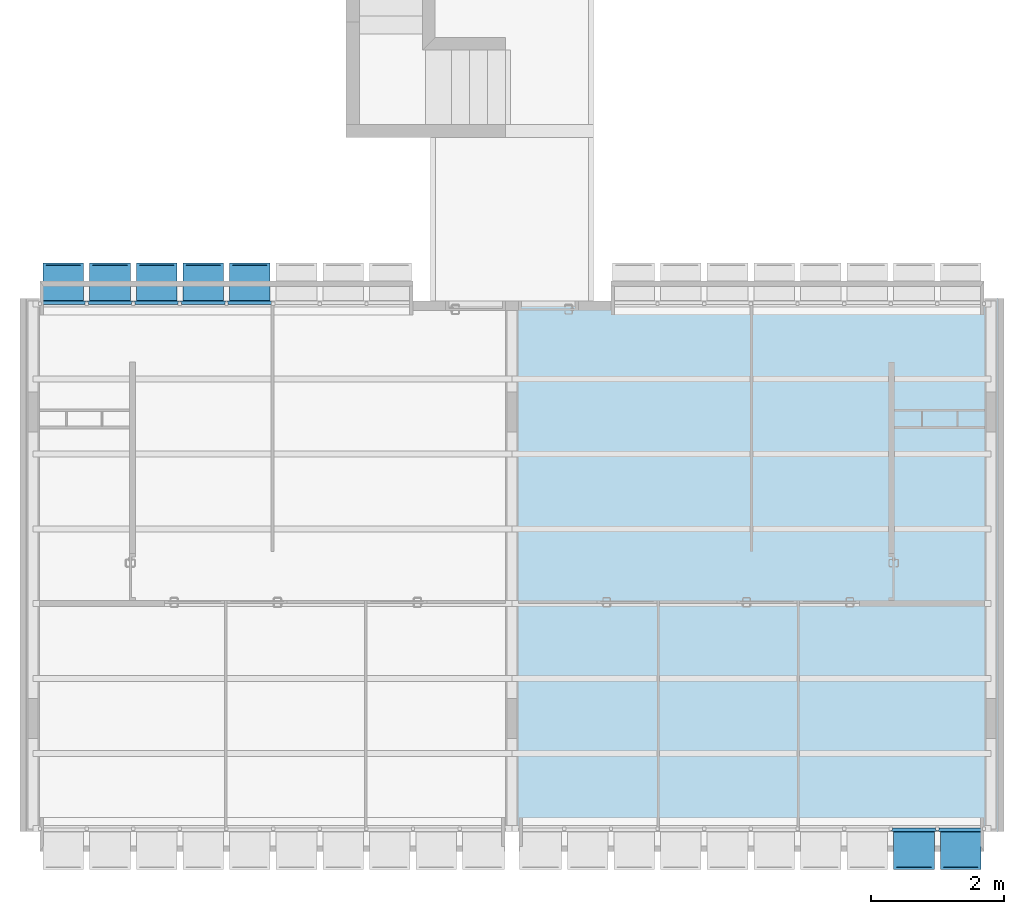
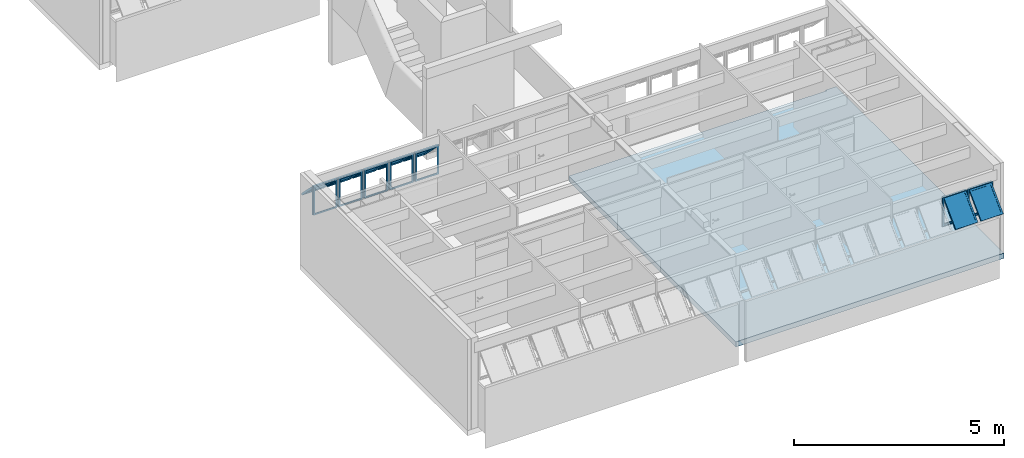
# One storey, part 7 of 41: 7 plates, 1 slab, 2 elements without a shape of their own.
"""IFC4 building model written with IfcOpenShell, lengths in millimetres."""

from ifc_helpers import new_model, entity, si_unit, converted_unit, derived_unit, direction, frame, origin_with_axes, place, context, subcontext, project, spatial, line, indexed_curve, outline, extrude, polygons, source, transform, mapped, material, layer, layer_set, layer_usage, constituent, constituent_set, type_object, element, aggregate, save


model = new_model("IFC4")

# Units and contexts
model_context = context("Model", 3, precision=0.01, world=origin_with_axes(), true_north=direction((0.0, 1.0)))
body_context = subcontext(model_context, "Body", "Model", "MODEL_VIEW")
ifc_project = project(units=[si_unit("LENGTHUNIT", "METRE", prefix="MILLI"), si_unit("AREAUNIT", "SQUARE_METRE"), si_unit("VOLUMEUNIT", "CUBIC_METRE"), converted_unit("PLANEANGLEUNIT", "DEGREE", entity("IfcPlaneAngleMeasure", 0.0174532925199), si_unit("PLANEANGLEUNIT", "RADIAN"), dimensions=[0, 0, 0, 0, 0, 0, 0]), converted_unit("TIMEUNIT", "Year", entity("IfcTimeMeasure", 31556926.0), si_unit("TIMEUNIT", "SECOND"), dimensions=[0, 0, 1, 0, 0, 0, 0]), si_unit("MASSUNIT", "GRAM", prefix="KILO"), si_unit("THERMODYNAMICTEMPERATUREUNIT", "DEGREE_CELSIUS"), si_unit("LUMINOUSINTENSITYUNIT", "LUMEN"), si_unit("ENERGYUNIT", "JOULE", prefix="MEGA"), derived_unit("THERMALCONDUCTANCEUNIT", [(si_unit("POWERUNIT", "WATT"), 1), (si_unit("LENGTHUNIT", "METRE"), -1), (si_unit("THERMODYNAMICTEMPERATUREUNIT", "KELVIN"), -1)]), derived_unit("SPECIFICHEATCAPACITYUNIT", [(si_unit("ENERGYUNIT", "JOULE"), 1), (si_unit("MASSUNIT", "GRAM", prefix="KILO"), -1), (si_unit("THERMODYNAMICTEMPERATUREUNIT", "KELVIN"), -1)]), derived_unit("MASSDENSITYUNIT", [(si_unit("MASSUNIT", "GRAM", prefix="KILO"), 1), (si_unit("VOLUMEUNIT", "CUBIC_METRE"), -1)])], contexts=[model_context])

# Site, building, storey
site_placement = place(None, origin_with_axes())
site = spatial("IfcSite", under=ifc_project, at=site_placement, Name="Local", CompositionType="ELEMENT")
building_placement = place(site_placement, origin_with_axes())
building = spatial("IfcBuilding", under=site, at=building_placement, Name="Construção", CompositionType="ELEMENT")
storey_placement = place(building_placement, frame((0.0, 0.0, 2650.0), z_axis=(0.0, 0.0, 1.0), x_axis=(1.0, 0.0, 0.0)))
storey = spatial("IfcBuildingStorey", under=building, at=storey_placement, Name="Segundo Pavimento", CompositionType="ELEMENT", Elevation=2650.0)

# Slab
ifc_material_1 = material(Name="Concreto Armado Moldado in Loco - Estrutural")
ifc_layer = layer(ifc_material_1, 150.0, ventilated="UNKNOWN", Name="Concreto Armado Moldado in Loco - Estrutural")
ifc_layer_set = layer_set([ifc_layer], Name="Concreto Armado Moldado in Loco - Estrutural 150")
ifc_layer_usage = layer_usage(ifc_layer_set, "AXIS3", "NEGATIVE", 150.0)
slab_type = type_object("IfcSlabType", Name="Concreto Armado Moldado in Loco - Estrutural 150", PredefinedType="FLOOR")
slab_placement = place(storey_placement, frame((14770.0, 300.0, 0.0), z_axis=(0.0, 0.0, 1.0), x_axis=(1.0, 0.0, 0.0)))
element("IfcSlab", 1, at=slab_placement, inside=storey, type_object=slab_type, material=ifc_layer_usage, Name="APTO6-LAJE-000", PredefinedType="FLOOR", context=body_context, shape_type="SweptSolid", body=[
    extrude(outline(indexed_curve([(0.0, 0.0), (0.0, 7999.99999872), (-289.999999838, 8000.00000006), (-290.0, 7965.0), (-5900.0, 7965.0), (-6160.00008404, 7964.99999866), (-7385.0, 7964.99999866), (-7385.0, 0.0), (-299.999978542, 0.0)], segments=[line(1, 2, 3, 4, 5, 6, 7, 8, 9, 1)])), frame((0.0, 0.0, -150.0), z_axis=(0.0, 0.0, 1.0), x_axis=(1.0, 0.0, 0.0)), (0.0, 0.0, 1.0), 150.0),
])

# Window, plates
window_type = type_object("IfcWindowType", Name="Tipo de Parede Cortina", PartitioningType="NOTDEFINED", PredefinedType="NOTDEFINED")
window_1_placement = place(storey_placement, frame((2750.0, 8250.0, 1355.00007107), z_axis=(0.0, 0.0, 1.0), x_axis=(1.0, 0.0, 0.0)))
window_1 = element("IfcWindow", 2, at=window_1_placement, inside=storey, type_object=window_type, Name="APTO5-JANELA-000", PredefinedType="NOTDEFINED")
ifc_material_2 = material(Name="Alumínio")
ifc_constituent_1 = constituent(ifc_material_2, Name="Alumínio")
ifc_material_3 = material(Name="Vidro")
ifc_constituent_2 = constituent(ifc_material_3, Name="Vidro")
ifc_constituent_set_1 = constituent_set(constituents=[ifc_constituent_1, ifc_constituent_2])
plate_type = type_object("IfcPlateType", Name="Painel Principal 690 x 845 x 20", PredefinedType="CURTAIN_PANEL")
shared_shape_1 = source(origin_with_axes(), body_context, "Body", "Tessellation", [
    polygons([(-25.0000036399, 0.0, -40.0), (-25.0000036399, 0.0, -35.0), (-674.999997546, 0.0, -35.0), (-674.999997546, 0.0, -40.0), (-70.0000036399, 45.0, -40.0), (-70.0000036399, 45.0, -35.0), (-629.999997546, 45.0, -35.0), (-629.999997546, 45.0, -40.0)], [[[1, 2, 3, 4]], [[5, 6, 2, 1]], [[2, 6, 7, 3]], [[4, 3, 7, 8]], [[1, 4, 8, 5]], [[8, 7, 6, 5]]], closed=True),
    polygons([(-674.999997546, 0.0, -40.0), (-674.999997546, 0.0, -35.0), (-674.999997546, 844.999891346, -35.0), (-674.999997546, 844.999891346, -40.0), (-629.999997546, 45.0, -40.0), (-629.999997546, 45.0, -35.0), (-629.999997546, 799.999891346, -35.0), (-629.999997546, 799.999891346, -40.0)], [[[1, 2, 3, 4]], [[5, 6, 2, 1]], [[2, 6, 7, 3]], [[4, 3, 7, 8]], [[1, 4, 8, 5]], [[8, 7, 6, 5]]], closed=True),
    polygons([(-25.0000036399, 844.999891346, -40.0), (-25.0000036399, 844.999891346, -35.0), (-70.0000036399, 799.999891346, -35.0), (-70.0000036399, 799.999891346, -40.0), (-674.999997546, 844.999891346, -40.0), (-674.999997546, 844.999891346, -35.0), (-629.999997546, 799.999891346, -35.0), (-629.999997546, 799.999891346, -40.0)], [[[1, 2, 3, 4]], [[5, 6, 2, 1]], [[2, 6, 7, 3]], [[4, 3, 7, 8]], [[1, 4, 8, 5]], [[8, 7, 6, 5]]], closed=True),
    polygons([(-25.0000036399, 0.0, -40.0), (-25.0000036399, 0.0, -35.0), (-70.0000036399, 45.0, -35.0), (-70.0000036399, 45.0, -40.0), (-25.0000036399, 844.999891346, -40.0), (-25.0000036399, 844.999891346, -35.0), (-70.0000036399, 799.999891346, -35.0), (-70.0000036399, 799.999891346, -40.0)], [[[1, 2, 3, 4]], [[5, 6, 2, 1]], [[2, 6, 7, 3]], [[4, 3, 7, 8]], [[1, 4, 8, 5]], [[8, 7, 6, 5]]], closed=True),
    polygons([(-25.0000036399, 0.0, -35.0), (-25.0000036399, 0.0, 15.0), (-674.999997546, 0.0, 15.0), (-674.999997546, 0.0, -35.0), (-45.0000036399, 20.0, -35.0), (-45.0000036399, 20.0, 15.0), (-654.999997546, 20.0, 15.0), (-654.999997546, 20.0, -35.0)], [[[1, 2, 3, 4]], [[5, 6, 2, 1]], [[2, 6, 7, 3]], [[4, 3, 7, 8]], [[1, 4, 8, 5]], [[8, 7, 6, 5]]], closed=True),
    polygons([(-674.999997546, 0.0, -35.0), (-674.999997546, 0.0, 15.0), (-674.999997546, 844.999891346, 15.0), (-674.999997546, 844.999891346, -35.0), (-654.999997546, 20.0, -35.0), (-654.999997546, 20.0, 15.0), (-654.999997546, 824.999891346, 15.0), (-654.999997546, 824.999891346, -35.0)], [[[1, 2, 3, 4]], [[5, 6, 2, 1]], [[2, 6, 7, 3]], [[4, 3, 7, 8]], [[1, 4, 8, 5]], [[8, 7, 6, 5]]], closed=True),
    polygons([(-25.0000036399, 844.999891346, -35.0), (-25.0000036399, 844.999891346, 15.0), (-45.0000036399, 824.999891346, 15.0), (-45.0000036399, 824.999891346, -35.0), (-674.999997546, 844.999891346, -35.0), (-674.999997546, 844.999891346, 15.0), (-654.999997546, 824.999891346, 15.0), (-654.999997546, 824.999891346, -35.0)], [[[1, 2, 3, 4]], [[5, 6, 2, 1]], [[2, 6, 7, 3]], [[4, 3, 7, 8]], [[1, 4, 8, 5]], [[8, 7, 6, 5]]], closed=True),
    polygons([(-25.0000036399, 0.0, -35.0), (-25.0000036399, 0.0, 15.0), (-45.0000036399, 20.0, 15.0), (-45.0000036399, 20.0, -35.0), (-25.0000036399, 844.999891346, -35.0), (-25.0000036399, 844.999891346, 15.0), (-45.0000036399, 824.999891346, 15.0), (-45.0000036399, 824.999891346, -35.0)], [[[1, 2, 3, 4]], [[5, 6, 2, 1]], [[2, 6, 7, 3]], [[4, 3, 7, 8]], [[1, 4, 8, 5]], [[8, 7, 6, 5]]], closed=True),
    polygons([(-694.999995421, 0.0, -10.0), (-694.999995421, 0.0, 10.0), (-694.999995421, 844.999891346, 10.0), (-694.999995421, 844.999891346, -10.0), (-674.999997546, 0.0, -10.0), (-674.999997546, 0.0, 10.0), (-674.999997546, 844.999891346, 10.0), (-674.999997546, 844.999891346, -10.0)], [[[1, 2, 3, 4]], [[5, 6, 2, 1]], [[2, 6, 7, 3]], [[4, 3, 7, 8]], [[1, 4, 8, 5]], [[8, 7, 6, 5]]], closed=True),
    polygons([(-5.00000576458, 844.999891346, -10.0), (-5.00000576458, 844.999891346, 10.0), (-5.00000576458, 0.0, 10.0), (-5.00000576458, 0.0, -10.0), (-25.0000036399, 844.999891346, -10.0), (-25.0000036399, 844.999891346, 10.0), (-25.0000036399, 0.0, 10.0), (-25.0000036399, 0.0, -10.0)], [[[1, 2, 3, 4]], [[5, 6, 2, 1]], [[2, 6, 7, 3]], [[4, 3, 7, 8]], [[1, 4, 8, 5]], [[8, 7, 6, 5]]], closed=True),
    polygons([(-90.0000036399, 252.243475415, 517.045737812), (-90.0000036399, 291.13434838, 555.936610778), (-90.0000036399, 796.715620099, 50.3553390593), (-90.0000036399, 757.824747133, 11.4644660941), (-45.0000036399, 220.423670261, 548.865542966), (-45.0000036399, 259.314543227, 587.756415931), (-45.0000036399, 828.535425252, 18.5355339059), (-45.0000036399, 789.644552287, -20.3553390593)], [[[1, 2, 3, 4]], [[5, 6, 2, 1]], [[2, 6, 7, 3]], [[4, 3, 7, 8]], [[1, 4, 8, 5]], [[8, 7, 6, 5]]], closed=True),
    polygons([(-654.999997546, 220.423670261, 548.865542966), (-654.999997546, 259.314543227, 587.756415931), (-654.999997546, 828.535425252, 18.5355339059), (-654.999997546, 789.644552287, -20.3553390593), (-609.999997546, 252.243475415, 517.045737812), (-609.999997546, 291.13434838, 555.936610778), (-609.999997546, 796.715620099, 50.3553390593), (-609.999997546, 757.824747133, 11.4644660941)], [[[1, 2, 3, 4]], [[5, 6, 2, 1]], [[2, 6, 7, 3]], [[4, 3, 7, 8]], [[1, 4, 8, 5]], [[8, 7, 6, 5]]], closed=True),
    polygons([(-654.999997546, 220.423670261, 548.865542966), (-654.999997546, 259.314543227, 587.756415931), (-609.999997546, 291.13434838, 555.936610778), (-609.999997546, 252.243475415, 517.045737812), (-45.0000036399, 220.423670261, 548.865542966), (-45.0000036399, 259.314543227, 587.756415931), (-90.0000036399, 291.13434838, 555.936610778), (-90.0000036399, 252.243475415, 517.045737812)], [[[1, 2, 3, 4]], [[5, 6, 2, 1]], [[2, 6, 7, 3]], [[4, 3, 7, 8]], [[1, 4, 8, 5]], [[8, 7, 6, 5]]], closed=True),
    polygons([(-45.0000036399, 789.644552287, -20.3553390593), (-45.0000036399, 828.535425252, 18.5355339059), (-90.0000036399, 796.715620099, 50.3553390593), (-90.0000036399, 757.824747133, 11.4644660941), (-654.999997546, 789.644552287, -20.3553390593), (-654.999997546, 828.535425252, 18.5355339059), (-609.999997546, 796.715620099, 50.3553390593), (-609.999997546, 757.824747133, 11.4644660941)], [[[1, 2, 3, 4]], [[5, 6, 2, 1]], [[2, 6, 7, 3]], [[4, 3, 7, 8]], [[1, 4, 8, 5]], [[8, 7, 6, 5]]], closed=True),
    polygons([(-90.0000036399, 272.749572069, 537.551834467), (-90.0000036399, 284.063280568, 548.865542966), (-609.999997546, 284.063280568, 548.865542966), (-609.999997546, 272.749572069, 537.551834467), (-90.0000036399, 778.330843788, 31.9705627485), (-90.0000036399, 789.644552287, 43.2842712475), (-609.999997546, 789.644552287, 43.2842712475), (-609.999997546, 778.330843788, 31.9705627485)], [[[1, 2, 3, 4]], [[5, 6, 2, 1]], [[2, 6, 7, 3]], [[4, 3, 7, 8]], [[1, 4, 8, 5]], [[8, 7, 6, 5]]], closed=True),
])
plate_1_placement = place(window_1_placement, frame((0.0, 0.0, 422.499964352), z_axis=(0.0, 0.0, 1.0), x_axis=(-1.0, 0.0, 0.0)))
plate_1 = element("IfcPlate", 3, at=plate_1_placement, type_object=plate_type, material=ifc_constituent_set_1, Name="APTO5-Painel-Prin-013", PredefinedType="CURTAIN_PANEL", context=body_context, shape_type="MappedRepresentation", body=[
    mapped(shared_shape_1, transform((350.0, 0.0, -422.499964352), x_axis=(1.0, 0.0, 0.0), y_axis=(0.0, 0.0, 1.0), z_axis=(0.0, -1.0, 0.0))),
])
ifc_constituent_3 = constituent(ifc_material_2, Name="Alumínio")
ifc_constituent_4 = constituent(ifc_material_3, Name="Vidro")
ifc_constituent_set_2 = constituent_set(constituents=[ifc_constituent_3, ifc_constituent_4])
shared_shape_2 = source(origin_with_axes(), body_context, "Body", "Tessellation", [
    polygons([(-25.0000036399, 0.0, -40.0), (-25.0000036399, 0.0, -35.0), (-674.999997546, 0.0, -35.0), (-674.999997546, 0.0, -40.0), (-70.0000036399, 45.0, -40.0), (-70.0000036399, 45.0, -35.0), (-629.999997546, 45.0, -35.0), (-629.999997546, 45.0, -40.0)], [[[1, 2, 3, 4]], [[5, 6, 2, 1]], [[2, 6, 7, 3]], [[4, 3, 7, 8]], [[1, 4, 8, 5]], [[8, 7, 6, 5]]], closed=True),
    polygons([(-674.999997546, 0.0, -40.0), (-674.999997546, 0.0, -35.0), (-674.999997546, 844.999891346, -35.0), (-674.999997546, 844.999891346, -40.0), (-629.999997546, 45.0, -40.0), (-629.999997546, 45.0, -35.0), (-629.999997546, 799.999891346, -35.0), (-629.999997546, 799.999891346, -40.0)], [[[1, 2, 3, 4]], [[5, 6, 2, 1]], [[2, 6, 7, 3]], [[4, 3, 7, 8]], [[1, 4, 8, 5]], [[8, 7, 6, 5]]], closed=True),
    polygons([(-25.0000036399, 844.999891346, -40.0), (-25.0000036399, 844.999891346, -35.0), (-70.0000036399, 799.999891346, -35.0), (-70.0000036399, 799.999891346, -40.0), (-674.999997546, 844.999891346, -40.0), (-674.999997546, 844.999891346, -35.0), (-629.999997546, 799.999891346, -35.0), (-629.999997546, 799.999891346, -40.0)], [[[1, 2, 3, 4]], [[5, 6, 2, 1]], [[2, 6, 7, 3]], [[4, 3, 7, 8]], [[1, 4, 8, 5]], [[8, 7, 6, 5]]], closed=True),
    polygons([(-25.0000036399, 0.0, -40.0), (-25.0000036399, 0.0, -35.0), (-70.0000036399, 45.0, -35.0), (-70.0000036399, 45.0, -40.0), (-25.0000036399, 844.999891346, -40.0), (-25.0000036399, 844.999891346, -35.0), (-70.0000036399, 799.999891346, -35.0), (-70.0000036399, 799.999891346, -40.0)], [[[1, 2, 3, 4]], [[5, 6, 2, 1]], [[2, 6, 7, 3]], [[4, 3, 7, 8]], [[1, 4, 8, 5]], [[8, 7, 6, 5]]], closed=True),
    polygons([(-25.0000036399, 0.0, -35.0), (-25.0000036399, 0.0, 15.0), (-674.999997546, 0.0, 15.0), (-674.999997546, 0.0, -35.0), (-45.0000036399, 20.0, -35.0), (-45.0000036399, 20.0, 15.0), (-654.999997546, 20.0, 15.0), (-654.999997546, 20.0, -35.0)], [[[1, 2, 3, 4]], [[5, 6, 2, 1]], [[2, 6, 7, 3]], [[4, 3, 7, 8]], [[1, 4, 8, 5]], [[8, 7, 6, 5]]], closed=True),
    polygons([(-674.999997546, 0.0, -35.0), (-674.999997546, 0.0, 15.0), (-674.999997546, 844.999891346, 15.0), (-674.999997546, 844.999891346, -35.0), (-654.999997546, 20.0, -35.0), (-654.999997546, 20.0, 15.0), (-654.999997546, 824.999891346, 15.0), (-654.999997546, 824.999891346, -35.0)], [[[1, 2, 3, 4]], [[5, 6, 2, 1]], [[2, 6, 7, 3]], [[4, 3, 7, 8]], [[1, 4, 8, 5]], [[8, 7, 6, 5]]], closed=True),
    polygons([(-25.0000036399, 844.999891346, -35.0), (-25.0000036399, 844.999891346, 15.0), (-45.0000036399, 824.999891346, 15.0), (-45.0000036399, 824.999891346, -35.0), (-674.999997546, 844.999891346, -35.0), (-674.999997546, 844.999891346, 15.0), (-654.999997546, 824.999891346, 15.0), (-654.999997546, 824.999891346, -35.0)], [[[1, 2, 3, 4]], [[5, 6, 2, 1]], [[2, 6, 7, 3]], [[4, 3, 7, 8]], [[1, 4, 8, 5]], [[8, 7, 6, 5]]], closed=True),
    polygons([(-25.0000036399, 0.0, -35.0), (-25.0000036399, 0.0, 15.0), (-45.0000036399, 20.0, 15.0), (-45.0000036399, 20.0, -35.0), (-25.0000036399, 844.999891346, -35.0), (-25.0000036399, 844.999891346, 15.0), (-45.0000036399, 824.999891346, 15.0), (-45.0000036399, 824.999891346, -35.0)], [[[1, 2, 3, 4]], [[5, 6, 2, 1]], [[2, 6, 7, 3]], [[4, 3, 7, 8]], [[1, 4, 8, 5]], [[8, 7, 6, 5]]], closed=True),
    polygons([(-694.999995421, 0.0, -10.0), (-694.999995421, 0.0, 10.0), (-694.999995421, 844.999891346, 10.0), (-694.999995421, 844.999891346, -10.0), (-674.999997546, 0.0, -10.0), (-674.999997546, 0.0, 10.0), (-674.999997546, 844.999891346, 10.0), (-674.999997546, 844.999891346, -10.0)], [[[1, 2, 3, 4]], [[5, 6, 2, 1]], [[2, 6, 7, 3]], [[4, 3, 7, 8]], [[1, 4, 8, 5]], [[8, 7, 6, 5]]], closed=True),
    polygons([(-5.00000576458, 844.999891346, -10.0), (-5.00000576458, 844.999891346, 10.0), (-5.00000576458, 0.0, 10.0), (-5.00000576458, 0.0, -10.0), (-25.0000036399, 844.999891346, -10.0), (-25.0000036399, 844.999891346, 10.0), (-25.0000036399, 0.0, 10.0), (-25.0000036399, 0.0, -10.0)], [[[1, 2, 3, 4]], [[5, 6, 2, 1]], [[2, 6, 7, 3]], [[4, 3, 7, 8]], [[1, 4, 8, 5]], [[8, 7, 6, 5]]], closed=True),
    polygons([(-90.0000036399, 252.243475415, 517.045737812), (-90.0000036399, 291.13434838, 555.936610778), (-90.0000036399, 796.715620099, 50.3553390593), (-90.0000036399, 757.824747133, 11.4644660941), (-45.0000036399, 220.423670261, 548.865542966), (-45.0000036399, 259.314543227, 587.756415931), (-45.0000036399, 828.535425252, 18.5355339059), (-45.0000036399, 789.644552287, -20.3553390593)], [[[1, 2, 3, 4]], [[5, 6, 2, 1]], [[2, 6, 7, 3]], [[4, 3, 7, 8]], [[1, 4, 8, 5]], [[8, 7, 6, 5]]], closed=True),
    polygons([(-654.999997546, 220.423670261, 548.865542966), (-654.999997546, 259.314543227, 587.756415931), (-654.999997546, 828.535425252, 18.5355339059), (-654.999997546, 789.644552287, -20.3553390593), (-609.999997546, 252.243475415, 517.045737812), (-609.999997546, 291.13434838, 555.936610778), (-609.999997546, 796.715620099, 50.3553390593), (-609.999997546, 757.824747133, 11.4644660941)], [[[1, 2, 3, 4]], [[5, 6, 2, 1]], [[2, 6, 7, 3]], [[4, 3, 7, 8]], [[1, 4, 8, 5]], [[8, 7, 6, 5]]], closed=True),
    polygons([(-654.999997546, 220.423670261, 548.865542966), (-654.999997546, 259.314543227, 587.756415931), (-609.999997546, 291.13434838, 555.936610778), (-609.999997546, 252.243475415, 517.045737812), (-45.0000036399, 220.423670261, 548.865542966), (-45.0000036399, 259.314543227, 587.756415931), (-90.0000036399, 291.13434838, 555.936610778), (-90.0000036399, 252.243475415, 517.045737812)], [[[1, 2, 3, 4]], [[5, 6, 2, 1]], [[2, 6, 7, 3]], [[4, 3, 7, 8]], [[1, 4, 8, 5]], [[8, 7, 6, 5]]], closed=True),
    polygons([(-45.0000036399, 789.644552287, -20.3553390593), (-45.0000036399, 828.535425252, 18.5355339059), (-90.0000036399, 796.715620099, 50.3553390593), (-90.0000036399, 757.824747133, 11.4644660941), (-654.999997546, 789.644552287, -20.3553390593), (-654.999997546, 828.535425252, 18.5355339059), (-609.999997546, 796.715620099, 50.3553390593), (-609.999997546, 757.824747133, 11.4644660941)], [[[1, 2, 3, 4]], [[5, 6, 2, 1]], [[2, 6, 7, 3]], [[4, 3, 7, 8]], [[1, 4, 8, 5]], [[8, 7, 6, 5]]], closed=True),
    polygons([(-90.0000036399, 272.749572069, 537.551834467), (-90.0000036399, 284.063280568, 548.865542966), (-609.999997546, 284.063280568, 548.865542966), (-609.999997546, 272.749572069, 537.551834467), (-90.0000036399, 778.330843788, 31.9705627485), (-90.0000036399, 789.644552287, 43.2842712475), (-609.999997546, 789.644552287, 43.2842712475), (-609.999997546, 778.330843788, 31.9705627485)], [[[1, 2, 3, 4]], [[5, 6, 2, 1]], [[2, 6, 7, 3]], [[4, 3, 7, 8]], [[1, 4, 8, 5]], [[8, 7, 6, 5]]], closed=True),
])
plate_2_placement = place(window_1_placement, frame((-2100.0, 0.0, 422.499998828), z_axis=(0.0, 0.0, 1.0), x_axis=(-1.0, 0.0, 0.0)))
plate_2 = element("IfcPlate", 4, at=plate_2_placement, type_object=plate_type, material=ifc_constituent_set_2, Name="APTO5-Painel-Prin-013", PredefinedType="CURTAIN_PANEL", context=body_context, shape_type="MappedRepresentation", body=[
    mapped(shared_shape_2, transform((350.0, 0.0, -422.499998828), x_axis=(1.0, 0.0, 0.0), y_axis=(0.0, 0.0, 1.0), z_axis=(0.0, -1.0, 0.0))),
])
ifc_constituent_5 = constituent(ifc_material_2, Name="Alumínio")
ifc_constituent_6 = constituent(ifc_material_3, Name="Vidro")
ifc_constituent_set_3 = constituent_set(constituents=[ifc_constituent_5, ifc_constituent_6])
plate_3_placement = place(window_1_placement, frame((-1400.0, 0.0, 422.499964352), z_axis=(0.0, 0.0, 1.0), x_axis=(-1.0, 0.0, 0.0)))
plate_3 = element("IfcPlate", 5, at=plate_3_placement, type_object=plate_type, material=ifc_constituent_set_3, Name="APTO5-Painel-Prin-013", PredefinedType="CURTAIN_PANEL", context=body_context, shape_type="MappedRepresentation", body=[
    mapped(shared_shape_2, transform((350.0, 0.0, -422.499964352), x_axis=(1.0, 0.0, 0.0), y_axis=(0.0, 0.0, 1.0), z_axis=(0.0, -1.0, 0.0))),
])

window_2_placement = place(storey_placement, frame((8520.0, 315.020977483, 1355.02054151), z_axis=(0.0, 0.0, 1.0), x_axis=(1.0, 0.0, 0.0)))
window_2 = element("IfcWindow", 6, at=window_2_placement, inside=storey, type_object=window_type, Name="APTO6-JANELA-001", PredefinedType="NOTDEFINED")
ifc_constituent_7 = constituent(ifc_material_2, Name="Alumínio")
ifc_constituent_8 = constituent(ifc_material_3, Name="Vidro")
ifc_constituent_set_4 = constituent_set(constituents=[ifc_constituent_7, ifc_constituent_8])
plate_4_placement = place(window_2_placement, frame((5600.0, 0.0, 422.499945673), z_axis=(0.0, 0.0, 1.0), x_axis=(1.0, 0.0, 0.0)))
plate_4 = element("IfcPlate", 7, at=plate_4_placement, type_object=plate_type, material=ifc_constituent_set_4, Name="APTO6-Painel-Prin-013", PredefinedType="CURTAIN_PANEL", context=body_context, shape_type="MappedRepresentation", body=[
    mapped(shared_shape_2, transform((350.0, 0.0, -422.499945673), x_axis=(1.0, 0.0, 0.0), y_axis=(0.0, 0.0, 1.0), z_axis=(0.0, -1.0, 0.0))),
])
ifc_constituent_9 = constituent(ifc_material_2, Name="Alumínio")
ifc_constituent_10 = constituent(ifc_material_3, Name="Vidro")
ifc_constituent_set_5 = constituent_set(constituents=[ifc_constituent_9, ifc_constituent_10])
plate_5_placement = place(window_2_placement, frame((4900.0, 0.0, 422.499945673), z_axis=(0.0, 0.0, 1.0), x_axis=(1.0, 0.0, 0.0)))
plate_5 = element("IfcPlate", 8, at=plate_5_placement, type_object=plate_type, material=ifc_constituent_set_5, Name="APTO6-Painel-Prin-013", PredefinedType="CURTAIN_PANEL", context=body_context, shape_type="MappedRepresentation", body=[
    mapped(shared_shape_2, transform((350.0, 0.0, -422.499945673), x_axis=(1.0, 0.0, 0.0), y_axis=(0.0, 0.0, 1.0), z_axis=(0.0, -1.0, 0.0))),
])
aggregate(window_2, [plate_4, plate_5])

# Plate
ifc_constituent_11 = constituent(ifc_material_2, Name="Alumínio")
ifc_constituent_12 = constituent(ifc_material_3, Name="Vidro")
ifc_constituent_set_6 = constituent_set(constituents=[ifc_constituent_11, ifc_constituent_12])
shared_shape_3 = source(origin_with_axes(), body_context, "Body", "Tessellation", [
    polygons([(-25.0000036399, 0.0, -40.0), (-25.0000036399, 0.0, -35.0), (-674.999997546, 0.0, -35.0), (-674.999997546, 0.0, -40.0), (-70.0000036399, 45.0, -40.0), (-70.0000036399, 45.0, -35.0), (-629.999997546, 45.0, -35.0), (-629.999997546, 45.0, -40.0)], [[[1, 2, 3, 4]], [[5, 6, 2, 1]], [[2, 6, 7, 3]], [[4, 3, 7, 8]], [[1, 4, 8, 5]], [[8, 7, 6, 5]]], closed=True),
    polygons([(-674.999997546, 0.0, -40.0), (-674.999997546, 0.0, -35.0), (-674.999997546, 844.999891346, -35.0), (-674.999997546, 844.999891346, -40.0), (-629.999997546, 45.0, -40.0), (-629.999997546, 45.0, -35.0), (-629.999997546, 799.999891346, -35.0), (-629.999997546, 799.999891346, -40.0)], [[[1, 2, 3, 4]], [[5, 6, 2, 1]], [[2, 6, 7, 3]], [[4, 3, 7, 8]], [[1, 4, 8, 5]], [[8, 7, 6, 5]]], closed=True),
    polygons([(-25.0000036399, 844.999891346, -40.0), (-25.0000036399, 844.999891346, -35.0), (-70.0000036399, 799.999891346, -35.0), (-70.0000036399, 799.999891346, -40.0), (-674.999997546, 844.999891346, -40.0), (-674.999997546, 844.999891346, -35.0), (-629.999997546, 799.999891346, -35.0), (-629.999997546, 799.999891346, -40.0)], [[[1, 2, 3, 4]], [[5, 6, 2, 1]], [[2, 6, 7, 3]], [[4, 3, 7, 8]], [[1, 4, 8, 5]], [[8, 7, 6, 5]]], closed=True),
    polygons([(-25.0000036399, 0.0, -40.0), (-25.0000036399, 0.0, -35.0), (-70.0000036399, 45.0, -35.0), (-70.0000036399, 45.0, -40.0), (-25.0000036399, 844.999891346, -40.0), (-25.0000036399, 844.999891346, -35.0), (-70.0000036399, 799.999891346, -35.0), (-70.0000036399, 799.999891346, -40.0)], [[[1, 2, 3, 4]], [[5, 6, 2, 1]], [[2, 6, 7, 3]], [[4, 3, 7, 8]], [[1, 4, 8, 5]], [[8, 7, 6, 5]]], closed=True),
    polygons([(-25.0000036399, 0.0, -35.0), (-25.0000036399, 0.0, 15.0), (-674.999997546, 0.0, 15.0), (-674.999997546, 0.0, -35.0), (-45.0000036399, 20.0, -35.0), (-45.0000036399, 20.0, 15.0), (-654.999997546, 20.0, 15.0), (-654.999997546, 20.0, -35.0)], [[[1, 2, 3, 4]], [[5, 6, 2, 1]], [[2, 6, 7, 3]], [[4, 3, 7, 8]], [[1, 4, 8, 5]], [[8, 7, 6, 5]]], closed=True),
    polygons([(-674.999997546, 0.0, -35.0), (-674.999997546, 0.0, 15.0), (-674.999997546, 844.999891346, 15.0), (-674.999997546, 844.999891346, -35.0), (-654.999997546, 20.0, -35.0), (-654.999997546, 20.0, 15.0), (-654.999997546, 824.999891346, 15.0), (-654.999997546, 824.999891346, -35.0)], [[[1, 2, 3, 4]], [[5, 6, 2, 1]], [[2, 6, 7, 3]], [[4, 3, 7, 8]], [[1, 4, 8, 5]], [[8, 7, 6, 5]]], closed=True),
    polygons([(-25.0000036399, 844.999891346, -35.0), (-25.0000036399, 844.999891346, 15.0), (-45.0000036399, 824.999891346, 15.0), (-45.0000036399, 824.999891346, -35.0), (-674.999997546, 844.999891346, -35.0), (-674.999997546, 844.999891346, 15.0), (-654.999997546, 824.999891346, 15.0), (-654.999997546, 824.999891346, -35.0)], [[[1, 2, 3, 4]], [[5, 6, 2, 1]], [[2, 6, 7, 3]], [[4, 3, 7, 8]], [[1, 4, 8, 5]], [[8, 7, 6, 5]]], closed=True),
    polygons([(-25.0000036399, 0.0, -35.0), (-25.0000036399, 0.0, 15.0), (-45.0000036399, 20.0, 15.0), (-45.0000036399, 20.0, -35.0), (-25.0000036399, 844.999891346, -35.0), (-25.0000036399, 844.999891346, 15.0), (-45.0000036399, 824.999891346, 15.0), (-45.0000036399, 824.999891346, -35.0)], [[[1, 2, 3, 4]], [[5, 6, 2, 1]], [[2, 6, 7, 3]], [[4, 3, 7, 8]], [[1, 4, 8, 5]], [[8, 7, 6, 5]]], closed=True),
    polygons([(-694.999995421, 0.0, -10.0), (-694.999995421, 0.0, 10.0), (-694.999995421, 844.999891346, 10.0), (-694.999995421, 844.999891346, -10.0), (-674.999997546, 0.0, -10.0), (-674.999997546, 0.0, 10.0), (-674.999997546, 844.999891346, 10.0), (-674.999997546, 844.999891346, -10.0)], [[[1, 2, 3, 4]], [[5, 6, 2, 1]], [[2, 6, 7, 3]], [[4, 3, 7, 8]], [[1, 4, 8, 5]], [[8, 7, 6, 5]]], closed=True),
    polygons([(-5.00000576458, 844.999891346, -10.0), (-5.00000576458, 844.999891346, 10.0), (-5.00000576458, 0.0, 10.0), (-5.00000576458, 0.0, -10.0), (-25.0000036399, 844.999891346, -10.0), (-25.0000036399, 844.999891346, 10.0), (-25.0000036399, 0.0, 10.0), (-25.0000036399, 0.0, -10.0)], [[[1, 2, 3, 4]], [[5, 6, 2, 1]], [[2, 6, 7, 3]], [[4, 3, 7, 8]], [[1, 4, 8, 5]], [[8, 7, 6, 5]]], closed=True),
    polygons([(-90.0000036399, 252.243475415, 517.045737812), (-90.0000036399, 291.13434838, 555.936610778), (-90.0000036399, 796.715620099, 50.3553390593), (-90.0000036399, 757.824747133, 11.4644660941), (-45.0000036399, 220.423670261, 548.865542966), (-45.0000036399, 259.314543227, 587.756415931), (-45.0000036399, 828.535425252, 18.5355339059), (-45.0000036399, 789.644552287, -20.3553390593)], [[[1, 2, 3, 4]], [[5, 6, 2, 1]], [[2, 6, 7, 3]], [[4, 3, 7, 8]], [[1, 4, 8, 5]], [[8, 7, 6, 5]]], closed=True),
    polygons([(-654.999997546, 220.423670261, 548.865542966), (-654.999997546, 259.314543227, 587.756415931), (-654.999997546, 828.535425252, 18.5355339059), (-654.999997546, 789.644552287, -20.3553390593), (-609.999997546, 252.243475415, 517.045737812), (-609.999997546, 291.13434838, 555.936610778), (-609.999997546, 796.715620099, 50.3553390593), (-609.999997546, 757.824747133, 11.4644660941)], [[[1, 2, 3, 4]], [[5, 6, 2, 1]], [[2, 6, 7, 3]], [[4, 3, 7, 8]], [[1, 4, 8, 5]], [[8, 7, 6, 5]]], closed=True),
    polygons([(-654.999997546, 220.423670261, 548.865542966), (-654.999997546, 259.314543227, 587.756415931), (-609.999997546, 291.13434838, 555.936610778), (-609.999997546, 252.243475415, 517.045737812), (-45.0000036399, 220.423670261, 548.865542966), (-45.0000036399, 259.314543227, 587.756415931), (-90.0000036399, 291.13434838, 555.936610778), (-90.0000036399, 252.243475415, 517.045737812)], [[[1, 2, 3, 4]], [[5, 6, 2, 1]], [[2, 6, 7, 3]], [[4, 3, 7, 8]], [[1, 4, 8, 5]], [[8, 7, 6, 5]]], closed=True),
    polygons([(-45.0000036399, 789.644552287, -20.3553390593), (-45.0000036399, 828.535425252, 18.5355339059), (-90.0000036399, 796.715620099, 50.3553390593), (-90.0000036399, 757.824747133, 11.4644660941), (-654.999997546, 789.644552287, -20.3553390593), (-654.999997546, 828.535425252, 18.5355339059), (-609.999997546, 796.715620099, 50.3553390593), (-609.999997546, 757.824747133, 11.4644660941)], [[[1, 2, 3, 4]], [[5, 6, 2, 1]], [[2, 6, 7, 3]], [[4, 3, 7, 8]], [[1, 4, 8, 5]], [[8, 7, 6, 5]]], closed=True),
    polygons([(-90.0000036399, 272.749572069, 537.551834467), (-90.0000036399, 284.063280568, 548.865542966), (-609.999997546, 284.063280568, 548.865542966), (-609.999997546, 272.749572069, 537.551834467), (-90.0000036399, 778.330843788, 31.9705627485), (-90.0000036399, 789.644552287, 43.2842712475), (-609.999997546, 789.644552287, 43.2842712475), (-609.999997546, 778.330843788, 31.9705627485)], [[[1, 2, 3, 4]], [[5, 6, 2, 1]], [[2, 6, 7, 3]], [[4, 3, 7, 8]], [[1, 4, 8, 5]], [[8, 7, 6, 5]]], closed=True),
])
plate_6_placement = place(window_1_placement, frame((700.0, 0.0, 422.499964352), z_axis=(0.0, 0.0, 1.0), x_axis=(-1.0, 0.0, 0.0)))
plate_6 = element("IfcPlate", 9, at=plate_6_placement, type_object=plate_type, material=ifc_constituent_set_6, Name="APTO5-Painel-Prin-013", PredefinedType="CURTAIN_PANEL", context=body_context, shape_type="MappedRepresentation", body=[
    mapped(shared_shape_3, transform((350.0, 0.0, -422.499964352), x_axis=(1.0, 0.0, 0.0), y_axis=(0.0, 0.0, 1.0), z_axis=(0.0, -1.0, 0.0))),
])

ifc_constituent_13 = constituent(ifc_material_2, Name="Alumínio")
ifc_constituent_14 = constituent(ifc_material_3, Name="Vidro")
ifc_constituent_set_7 = constituent_set(constituents=[ifc_constituent_13, ifc_constituent_14])
plate_7_placement = place(window_1_placement, frame((-700.0, 0.0, 422.499964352), z_axis=(0.0, 0.0, 1.0), x_axis=(-1.0, 0.0, 0.0)))
plate_7 = element("IfcPlate", 10, at=plate_7_placement, type_object=plate_type, material=ifc_constituent_set_7, Name="APTO5-Painel-Prin-013", PredefinedType="CURTAIN_PANEL", context=body_context, shape_type="MappedRepresentation", body=[
    mapped(shared_shape_3, transform((350.0, 0.0, -422.499964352), x_axis=(1.0, 0.0, 0.0), y_axis=(0.0, 0.0, 1.0), z_axis=(0.0, -1.0, 0.0))),
])

aggregate(window_1, [plate_1, plate_2, plate_3, plate_6, plate_7])

save(model, "model.ifc")
